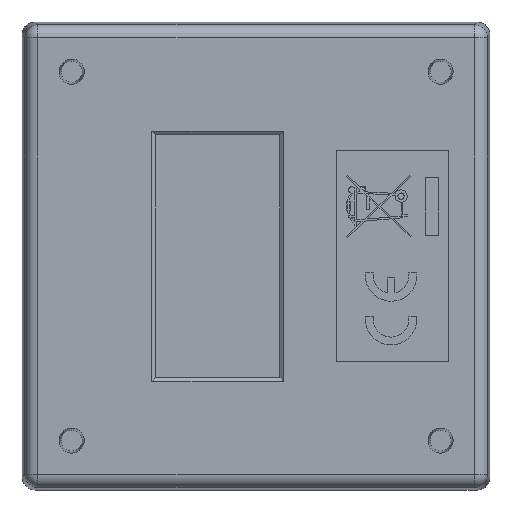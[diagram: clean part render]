
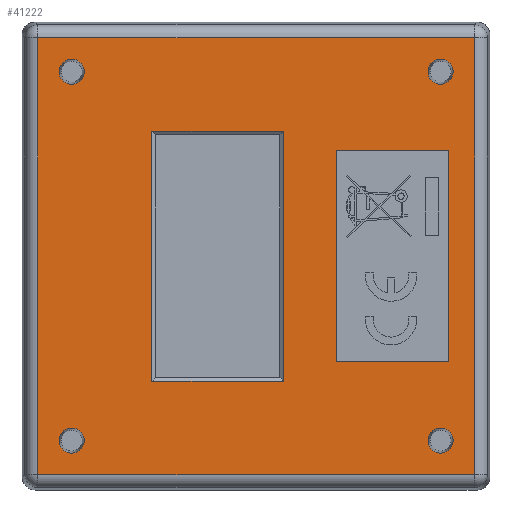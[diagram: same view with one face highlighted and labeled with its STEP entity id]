
A CAD part, front view. The second image highlights one B-rep face of the part: STEP entity #41222.
In plain terms, the highlighted planar face has unit normal (0, -1, 0) as drawn and (0, 0, -1) by its records, which use the part's own axes.
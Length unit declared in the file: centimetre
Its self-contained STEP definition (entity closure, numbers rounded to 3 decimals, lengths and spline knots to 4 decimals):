
#13611=CIRCLE('',#42856,0.1209);
#13612=CIRCLE('',#42857,0.1209);
#13613=CIRCLE('',#42858,0.1209);
#13614=CIRCLE('',#42859,0.1209);
#15426=VERTEX_POINT('',#52296);
#15427=VERTEX_POINT('',#52298);
#15429=VERTEX_POINT('',#52304);
#15431=VERTEX_POINT('',#52310);
#15526=VERTEX_POINT('',#52656);
#15527=VERTEX_POINT('',#52658);
#15529=VERTEX_POINT('',#52664);
#15531=VERTEX_POINT('',#52670);
#15652=VERTEX_POINT('',#53742);
#15653=VERTEX_POINT('',#53744);
#15654=VERTEX_POINT('',#53746);
#15655=VERTEX_POINT('',#53748);
#15656=VERTEX_POINT('',#53750);
#15657=VERTEX_POINT('',#53751);
#15658=VERTEX_POINT('',#53753);
#15659=VERTEX_POINT('',#53755);
#18307=VECTOR('',#45378,1.);
#18310=VECTOR('',#45382,1.);
#18313=VECTOR('',#45386,1.);
#18316=VECTOR('',#45390,1.);
#18446=VECTOR('',#45584,1.);
#18449=VECTOR('',#45588,1.);
#18452=VECTOR('',#45592,1.);
#18455=VECTOR('',#45596,1.);
#18616=VECTOR('',#45829,1.);
#18617=VECTOR('',#45830,1.);
#18618=VECTOR('',#45831,1.);
#18619=VECTOR('',#45832,1.);
#21495=LINE('',#52297,#18307);
#21498=LINE('',#52303,#18310);
#21501=LINE('',#52309,#18313);
#21504=LINE('',#52314,#18316);
#21634=LINE('',#52657,#18446);
#21637=LINE('',#52663,#18449);
#21640=LINE('',#52669,#18452);
#21643=LINE('',#52674,#18455);
#21804=LINE('',#53749,#18616);
#21805=LINE('',#53752,#18617);
#21806=LINE('',#53754,#18618);
#21807=LINE('',#53756,#18619);
#24766=EDGE_CURVE('',#15427,#15426,#21495,.T.);
#24769=EDGE_CURVE('',#15429,#15427,#21498,.T.);
#24772=EDGE_CURVE('',#15431,#15429,#21501,.T.);
#24775=EDGE_CURVE('',#15426,#15431,#21504,.T.);
#24915=EDGE_CURVE('',#15527,#15526,#21634,.F.);
#24918=EDGE_CURVE('',#15529,#15527,#21637,.F.);
#24921=EDGE_CURVE('',#15531,#15529,#21640,.F.);
#24924=EDGE_CURVE('',#15526,#15531,#21643,.F.);
#25105=EDGE_CURVE('',#15652,#15652,#13611,.F.);
#25106=EDGE_CURVE('',#15653,#15653,#13612,.F.);
#25107=EDGE_CURVE('',#15654,#15654,#13613,.F.);
#25108=EDGE_CURVE('',#15655,#15655,#13614,.F.);
#25109=EDGE_CURVE('',#15656,#15657,#21804,.T.);
#25110=EDGE_CURVE('',#15658,#15656,#21805,.T.);
#25111=EDGE_CURVE('',#15659,#15658,#21806,.T.);
#25112=EDGE_CURVE('',#15657,#15659,#21807,.T.);
#30239=ORIENTED_EDGE('',*,*,#24766,.T.);
#30240=ORIENTED_EDGE('',*,*,#24775,.T.);
#30241=ORIENTED_EDGE('',*,*,#24772,.T.);
#30242=ORIENTED_EDGE('',*,*,#24769,.T.);
#30243=ORIENTED_EDGE('',*,*,#25105,.T.);
#30244=ORIENTED_EDGE('',*,*,#25106,.T.);
#30245=ORIENTED_EDGE('',*,*,#25107,.T.);
#30246=ORIENTED_EDGE('',*,*,#25108,.T.);
#30247=ORIENTED_EDGE('',*,*,#25109,.F.);
#30248=ORIENTED_EDGE('',*,*,#25110,.F.);
#30249=ORIENTED_EDGE('',*,*,#25111,.F.);
#30250=ORIENTED_EDGE('',*,*,#25112,.F.);
#30251=ORIENTED_EDGE('',*,*,#24915,.T.);
#30252=ORIENTED_EDGE('',*,*,#24924,.T.);
#30253=ORIENTED_EDGE('',*,*,#24921,.T.);
#30254=ORIENTED_EDGE('',*,*,#24918,.T.);
#37674=EDGE_LOOP('',(#30239,#30240,#30241,#30242));
#37675=EDGE_LOOP('',(#30243));
#37676=EDGE_LOOP('',(#30244));
#37677=EDGE_LOOP('',(#30245));
#37678=EDGE_LOOP('',(#30246));
#37679=EDGE_LOOP('',(#30247,#30248,#30249,#30250));
#37680=EDGE_LOOP('',(#30251,#30252,#30253,#30254));
#39459=FACE_BOUND('',#37674,.T.);
#39460=FACE_BOUND('',#37675,.T.);
#39461=FACE_BOUND('',#37676,.T.);
#39462=FACE_BOUND('',#37677,.T.);
#39463=FACE_BOUND('',#37678,.T.);
#39464=FACE_BOUND('',#37679,.T.);
#39465=FACE_BOUND('',#37680,.T.);
#41222=ADVANCED_FACE('',(#39459,#39460,#39461,#39462,#39463,#39464,#39465),
#67172,.F.);
#42855=AXIS2_PLACEMENT_3D('',#53740,#45820,$);
#42856=AXIS2_PLACEMENT_3D('',#53741,#45821,#45822);
#42857=AXIS2_PLACEMENT_3D('',#53743,#45823,#45824);
#42858=AXIS2_PLACEMENT_3D('',#53745,#45825,#45826);
#42859=AXIS2_PLACEMENT_3D('',#53747,#45827,#45828);
#45378=DIRECTION('',(1.,0.,0.));
#45382=DIRECTION('',(0.,-1.,0.));
#45386=DIRECTION('',(-1.,0.,0.));
#45390=DIRECTION('',(0.,1.,0.));
#45584=DIRECTION('',(-1.,0.,0.));
#45588=DIRECTION('',(0.,1.,0.));
#45592=DIRECTION('',(1.,0.,0.));
#45596=DIRECTION('',(0.,-1.,0.));
#45820=DIRECTION('',(0.,0.,1.));
#45821=DIRECTION('',(0.,0.,-1.));
#45822=DIRECTION('',(-0.121,0.,0.));
#45823=DIRECTION('',(0.,0.,-1.));
#45824=DIRECTION('',(-0.121,0.,0.));
#45825=DIRECTION('',(0.,0.,-1.));
#45826=DIRECTION('',(-0.121,0.,0.));
#45827=DIRECTION('',(0.,0.,-1.));
#45828=DIRECTION('',(-0.121,0.,0.));
#45829=DIRECTION('',(-1.,0.,0.));
#45830=DIRECTION('',(0.,1.,0.));
#45831=DIRECTION('',(1.,0.,0.));
#45832=DIRECTION('',(0.,-1.,0.));
#52296=CARTESIAN_POINT('',(1.2065,-0.2639,-0.0032));
#52297=CARTESIAN_POINT('',(0.6033,-0.2639,-0.0032));
#52298=CARTESIAN_POINT('',(-1.2065,-0.2639,-0.0032));
#52303=CARTESIAN_POINT('',(-1.2065,-0.1319,-0.0032));
#52304=CARTESIAN_POINT('',(-1.2065,1.0061,-0.0032));
#52309=CARTESIAN_POINT('',(-0.6032,1.0061,-0.0032));
#52310=CARTESIAN_POINT('',(1.2065,1.0061,-0.0032));
#52314=CARTESIAN_POINT('',(1.2065,0.5031,-0.0032));
#52656=CARTESIAN_POINT('',(1.0178,-1.8531,-0.0032));
#52657=CARTESIAN_POINT('',(0.,-1.8531,-0.0032));
#52658=CARTESIAN_POINT('',(-1.0178,-1.8531,-0.0032));
#52663=CARTESIAN_POINT('',(-1.0178,-0.3279,-0.0032));
#52664=CARTESIAN_POINT('',(-1.0178,-0.7701,-0.0032));
#52669=CARTESIAN_POINT('',(0.,-0.7701,-0.0032));
#52670=CARTESIAN_POINT('',(1.0178,-0.7701,-0.0032));
#52674=CARTESIAN_POINT('',(1.0178,-0.3279,-0.0032));
#53740=CARTESIAN_POINT('',(0.,0.,-0.0032));
#53741=CARTESIAN_POINT('',(1.778,1.778,-0.0032));
#53742=CARTESIAN_POINT('',(1.8989,1.778,-0.0032));
#53743=CARTESIAN_POINT('',(1.778,-1.778,-0.0032));
#53744=CARTESIAN_POINT('',(1.8989,-1.778,-0.0032));
#53745=CARTESIAN_POINT('',(-1.778,-1.778,-0.0032));
#53746=CARTESIAN_POINT('',(-1.6571,-1.778,-0.0032));
#53747=CARTESIAN_POINT('',(-1.778,1.778,-0.0032));
#53748=CARTESIAN_POINT('',(-1.6571,1.778,-0.0032));
#53749=CARTESIAN_POINT('',(0.,2.1054,-0.0032));
#53750=CARTESIAN_POINT('',(2.1054,2.1054,-0.0032));
#53751=CARTESIAN_POINT('',(-2.1054,2.1054,-0.0032));
#53752=CARTESIAN_POINT('',(2.1054,0.,-0.0032));
#53753=CARTESIAN_POINT('',(2.1054,-2.1054,-0.0032));
#53754=CARTESIAN_POINT('',(0.,-2.1054,-0.0032));
#53755=CARTESIAN_POINT('',(-2.1054,-2.1054,-0.0032));
#53756=CARTESIAN_POINT('',(-2.1054,0.,-0.0032));
#67172=PLANE('',#42855);
